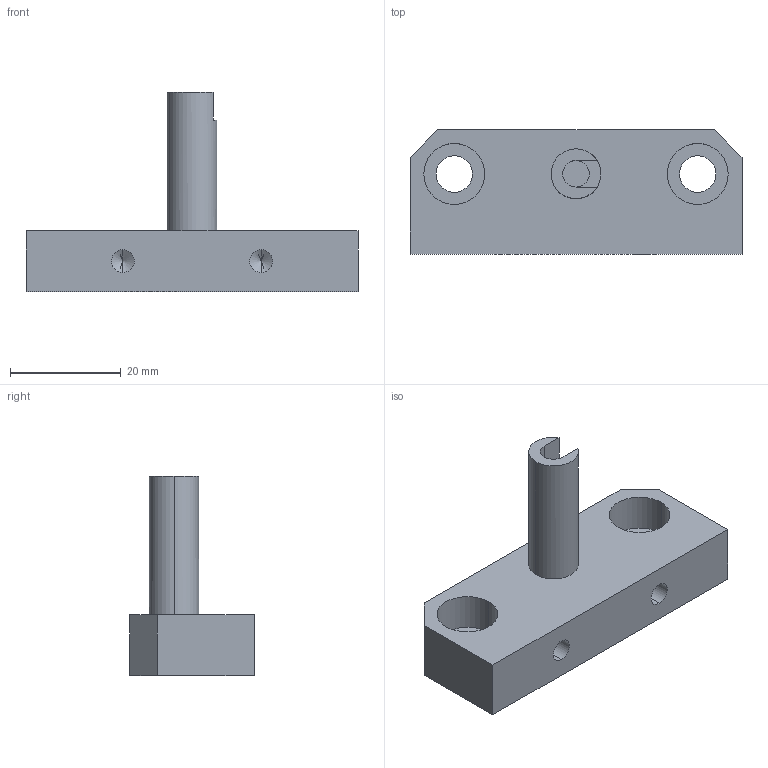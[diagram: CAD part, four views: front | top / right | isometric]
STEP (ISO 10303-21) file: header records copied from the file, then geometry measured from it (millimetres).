
FILE_DESCRIPTION (( 'STEP AP214' ), '1' );
FILE_NAME ('GZ29.10_V1速降阀定位套筒.STEP', '2021-05-07T07:18:17', ( '微软中国' ), ( 'Microsoft' ), 'SwSTEP 2.0', 'SolidWorks 2017', '' );
FILE_SCHEMA (( 'AUTOMOTIVE_DESIGN' ));
Length unit declared in the file: millimetre
Products named in the file (1): GZ29.10_V1厒蔥概隅弇杶芠
Bounding box: 60 x 22.5 x 36 mm (x, y, z)
Volume: 13785 mm3; surface area: 6206.7 mm2
Topology: 1 solids, 1 shells, 41 faces, 98 edges, 62 vertices
Faces by surface type: cylinder 20, plane 17, cone 4
Entity records: 1262 total; most frequent: DIRECTION 222, CARTESIAN_POINT 198, ORIENTED_EDGE 188, EDGE_CURVE 94, AXIS2_PLACEMENT_3D 86, VERTEX_POINT 62, EDGE_LOOP 52, LINE 50
